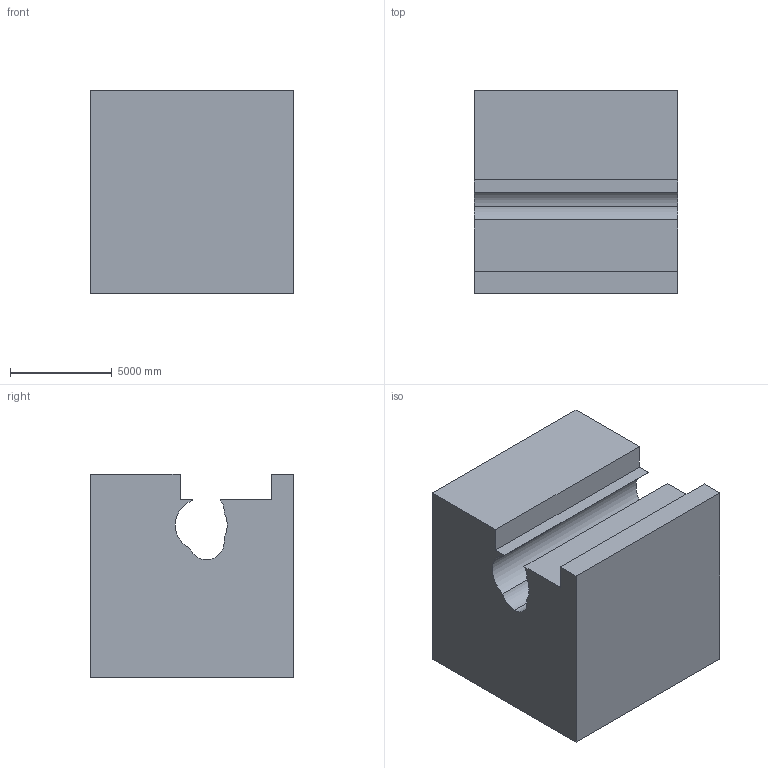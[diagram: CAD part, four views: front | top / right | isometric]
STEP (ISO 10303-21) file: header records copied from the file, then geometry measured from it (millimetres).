
FILE_DESCRIPTION (( 'STEP AP203' ), '1' );
FILE_NAME ('321.STEP', '2022-07-28T14:20:00', ( 'user' ), ( '' ), 'SwSTEP 2.0', 'SolidWorks 2021', '' );
FILE_SCHEMA (( 'CONFIG_CONTROL_DESIGN' ));
Length unit declared in the file: centimetre
Products named in the file (1): 321
Bounding box: 10000 x 10000 x 10000 mm (x, y, z)
Volume: 875260283805.4 mm3; surface area: 682021949 mm2
Topology: 1 solids, 1 shells, 25 faces, 63 edges, 42 vertices
Faces by surface type: plane 15, cylinder 10
Entity records: 834 total; most frequent: DIRECTION 135, CARTESIAN_POINT 131, ORIENTED_EDGE 126, EDGE_CURVE 63, AXIS2_PLACEMENT_3D 46, LINE 43, VECTOR 43, VERTEX_POINT 42
